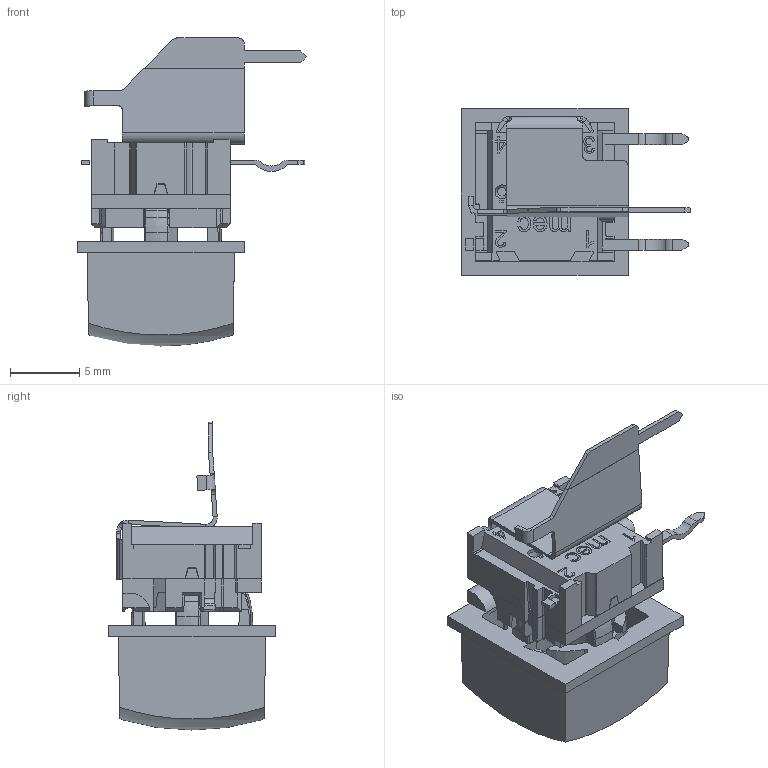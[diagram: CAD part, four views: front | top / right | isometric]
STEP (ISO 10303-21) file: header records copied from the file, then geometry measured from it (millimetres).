
FILE_DESCRIPTION(/* description */ (''),/* implementation_level */ '2;1');
FILE_NAME(/* name */ 'C:\Users\cgh.MEC\Desktop\Traceparts - 3D programserie\STEP filer\RAS\5GTH935RAS+1TS.stp',/* time_stamp */ '2016-03-01T11:53:29+01:00',/* author */ ('cgh'),/* organization */ (''),/* preprocessor_version */ 'ST-DEVELOPER v15.2',/* originating_system */ 'Autodesk Inventor 2014',/* authorisation */ '');
FILE_SCHEMA (('AUTOMOTIVE_DESIGN { 1 0 10303 214 3 1 1 }'));
Length unit declared in the file: centimetre
Products named in the file (1): cgh
Bounding box: 16.57 x 12.06 x 22.26 mm (x, y, z)
Volume: 914.1 mm3; surface area: 2162 mm2
Topology: 2 solids, 15 shells, 1174 faces, 3332 edges, 2168 vertices
Faces by surface type: plane 739, cylinder 185, bspline 140, cone 56, torus 46, sphere 8
Full cylindrical faces by diameter (mm): 1 x3, 2.8 x1, 4.747 x1, 6.5 x1, 7.2 x1, 7.44 x1
Entity records: 42971 total; most frequent: CARTESIAN_POINT 12200, ORIENTED_EDGE 6616, DIRECTION 5576, EDGE_CURVE 3300, VERTEX_POINT 2156, LINE 2074, VECTOR 2074, AXIS2_PLACEMENT_3D 1751
